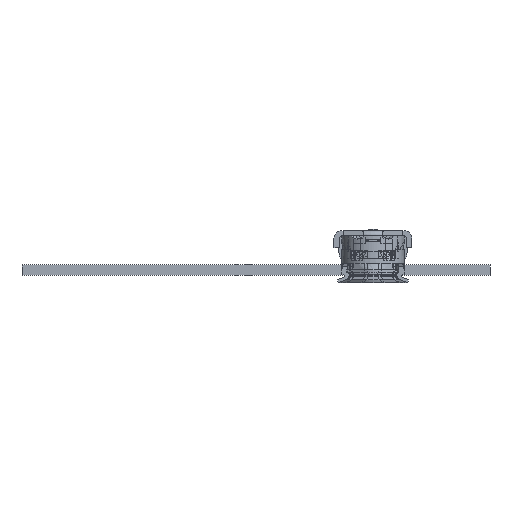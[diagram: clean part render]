
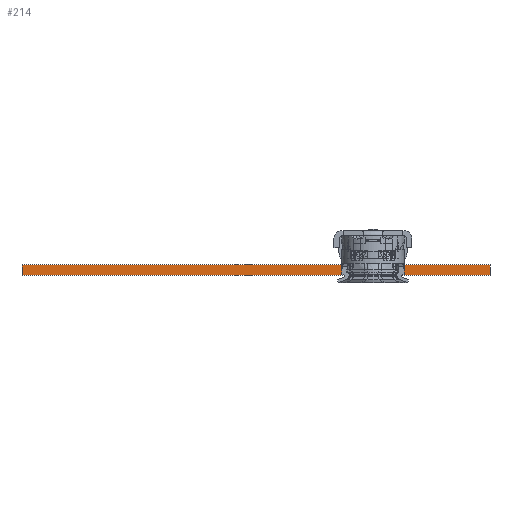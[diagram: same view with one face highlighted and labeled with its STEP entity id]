
A CAD part, front view. The second image highlights one B-rep face of the part: STEP entity #214.
In plain terms, the highlighted planar face has unit normal (0, -1, 0).
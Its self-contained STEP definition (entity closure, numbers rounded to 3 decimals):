
#50=DIRECTION('',(1.,0.,0.));
#51=VECTOR('',#50,18.);
#52=CARTESIAN_POINT('',(-9.,-6.6,0.));
#53=LINE('',#52,#51);
#71=DIRECTION('',(0.,0.,-1.));
#72=VECTOR('',#71,0.4);
#73=CARTESIAN_POINT('',(9.,-6.6,0.));
#74=LINE('',#73,#72);
#92=DIRECTION('',(0.,0.,-1.));
#93=VECTOR('',#92,0.4);
#94=CARTESIAN_POINT('',(-9.,-6.6,0.));
#95=LINE('',#94,#93);
#120=DIRECTION('',(1.,0.,0.));
#121=VECTOR('',#120,18.);
#122=CARTESIAN_POINT('',(-9.,-6.6,-0.4));
#123=LINE('',#122,#121);
#127=CARTESIAN_POINT('',(9.,-6.6,0.));
#129=VERTEX_POINT('',#127);
#133=CARTESIAN_POINT('',(-9.,-6.6,0.));
#134=VERTEX_POINT('',#133);
#135=CARTESIAN_POINT('',(9.,-6.6,-0.4));
#137=VERTEX_POINT('',#135);
#141=CARTESIAN_POINT('',(-9.,-6.6,-0.4));
#142=VERTEX_POINT('',#141);
#202=CARTESIAN_POINT('',(-9.,-6.6,0.));
#203=DIRECTION('',(0.,-1.,0.));
#204=DIRECTION('',(1.,0.,0.));
#205=AXIS2_PLACEMENT_3D('',#202,#203,#204);
#206=PLANE('',#205);
#207=ORIENTED_EDGE('',*,*,#150,.T.);
#208=ORIENTED_EDGE('',*,*,#169,.T.);
#210=ORIENTED_EDGE('',*,*,#209,.F.);
#211=ORIENTED_EDGE('',*,*,#194,.F.);
#212=EDGE_LOOP('',(#207,#208,#210,#211));
#213=FACE_OUTER_BOUND('',#212,.F.);
#150=EDGE_CURVE('',#134,#129,#53,.T.);
#169=EDGE_CURVE('',#129,#137,#74,.T.);
#194=EDGE_CURVE('',#134,#142,#95,.T.);
#209=EDGE_CURVE('',#142,#137,#123,.T.);
#214=ADVANCED_FACE('',(#213),#206,.T.);
